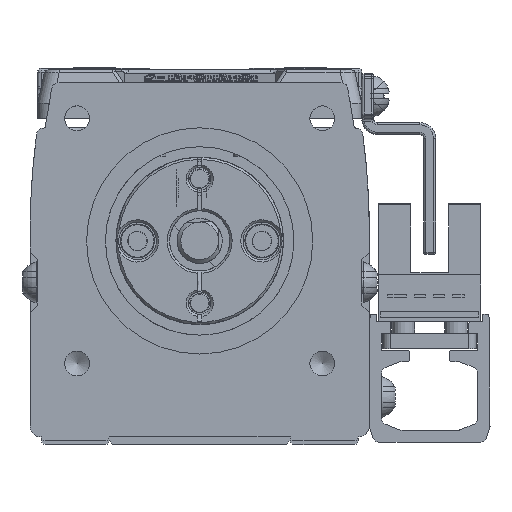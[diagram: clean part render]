
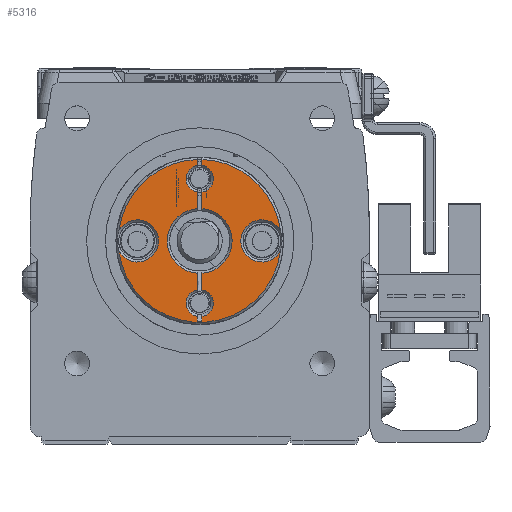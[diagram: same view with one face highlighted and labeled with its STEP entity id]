
A CAD part, left-side view. The second image highlights one B-rep face of the part: STEP entity #5316.
In plain terms, the highlighted planar face has unit normal (-1, 0, 0) as drawn and (1, 0, 0) by its records, which use the part's own axes.
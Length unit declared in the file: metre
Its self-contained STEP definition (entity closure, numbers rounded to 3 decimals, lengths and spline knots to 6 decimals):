
#5316=ADVANCED_FACE('',(#11390),#11391,.F.);
#11390=FACE_OUTER_BOUND('',#20077,.T.);
#11391=PLANE('',#20078);
#20077=EDGE_LOOP('',(#33382,#33383,#33384,#33385,#33386,#33387,#33388,#33389,#33390,#33391,#33392,#33393,#33394,#33395,#33396,#33397,#33398,#33399,#33400,#33401));
#20078=AXIS2_PLACEMENT_3D('',#33402,#33403,#33404);
#33382=ORIENTED_EDGE('',*,*,#52052,.F.);
#33383=ORIENTED_EDGE('',*,*,#52053,.T.);
#33384=ORIENTED_EDGE('',*,*,#52054,.F.);
#33385=ORIENTED_EDGE('',*,*,#52055,.F.);
#33386=ORIENTED_EDGE('',*,*,#50384,.T.);
#33387=ORIENTED_EDGE('',*,*,#52056,.T.);
#33388=ORIENTED_EDGE('',*,*,#52057,.F.);
#33389=ORIENTED_EDGE('',*,*,#52058,.F.);
#33390=ORIENTED_EDGE('',*,*,#52059,.F.);
#33391=ORIENTED_EDGE('',*,*,#52060,.T.);
#33392=ORIENTED_EDGE('',*,*,#52061,.F.);
#33393=ORIENTED_EDGE('',*,*,#52062,.F.);
#33394=ORIENTED_EDGE('',*,*,#49674,.F.);
#33395=ORIENTED_EDGE('',*,*,#52063,.F.);
#33396=ORIENTED_EDGE('',*,*,#52064,.F.);
#33397=ORIENTED_EDGE('',*,*,#52065,.F.);
#33398=ORIENTED_EDGE('',*,*,#52066,.F.);
#33399=ORIENTED_EDGE('',*,*,#52067,.F.);
#33400=ORIENTED_EDGE('',*,*,#52068,.T.);
#33401=ORIENTED_EDGE('',*,*,#52069,.F.);
#33402=CARTESIAN_POINT('',(0.0,0.0,0.));
#33403=DIRECTION('',(-1.0,0.,0.0));
#33404=DIRECTION('',(0.,-1.0,0.0));
#49674=EDGE_CURVE('',#57642,#57644,#57645,.T.);
#50384=EDGE_CURVE('',#58873,#58877,#58879,.F.);
#52052=EDGE_CURVE('',#61636,#61637,#61638,.F.);
#52053=EDGE_CURVE('',#61636,#61639,#61640,.T.);
#52054=EDGE_CURVE('',#61641,#61639,#61642,.F.);
#52055=EDGE_CURVE('',#58873,#61641,#61643,.T.);
#52056=EDGE_CURVE('',#58877,#61644,#61645,.T.);
#52057=EDGE_CURVE('',#61646,#61644,#61647,.F.);
#52058=EDGE_CURVE('',#61648,#61646,#61649,.T.);
#52059=EDGE_CURVE('',#61650,#61648,#61651,.T.);
#52060=EDGE_CURVE('',#61650,#61652,#61653,.T.);
#52061=EDGE_CURVE('',#61654,#61652,#61655,.F.);
#52062=EDGE_CURVE('',#57644,#61654,#61656,.T.);
#52063=EDGE_CURVE('',#61657,#57642,#61658,.T.);
#52064=EDGE_CURVE('',#61659,#61657,#61660,.T.);
#52065=EDGE_CURVE('',#61661,#61659,#61662,.T.);
#52066=EDGE_CURVE('',#61663,#61661,#61664,.T.);
#52067=EDGE_CURVE('',#61665,#61663,#61666,.T.);
#52068=EDGE_CURVE('',#61665,#61667,#61668,.F.);
#52069=EDGE_CURVE('',#61637,#61667,#61669,.T.);
#57642=VERTEX_POINT('',#69350);
#57644=VERTEX_POINT('',#69353);
#57645=LINE('',#69354,#69355);
#58873=VERTEX_POINT('',#71169);
#58877=VERTEX_POINT('',#71177);
#58879=LINE('',#71179,#71180);
#61636=VERTEX_POINT('',#75326);
#61637=VERTEX_POINT('',#75327);
#61638=LINE('',#75328,#75329);
#61639=VERTEX_POINT('',#75330);
#61640=CIRCLE('',#75331,0.0043);
#61641=VERTEX_POINT('',#75332);
#61642=LINE('',#75333,#75334);
#61643=CIRCLE('',#75335,0.0018);
#61644=VERTEX_POINT('',#75336);
#61645=LINE('',#75337,#75338);
#61646=VERTEX_POINT('',#75339);
#61647=LINE('',#75340,#75341);
#61648=VERTEX_POINT('',#75342);
#61649=CIRCLE('',#75343,0.0018);
#61650=VERTEX_POINT('',#75344);
#61651=LINE('',#75345,#75346);
#61652=VERTEX_POINT('',#75347);
#61653=CIRCLE('',#75348,0.0043);
#61654=VERTEX_POINT('',#75349);
#61655=LINE('',#75350,#75351);
#61656=CIRCLE('',#75352,0.0018);
#61657=VERTEX_POINT('',#75353);
#61658=CIRCLE('',#75354,0.0108);
#61659=VERTEX_POINT('',#75355);
#61660=CIRCLE('',#75356,0.0028);
#61661=VERTEX_POINT('',#75357);
#61662=CIRCLE('',#75358,0.0108);
#61663=VERTEX_POINT('',#75359);
#61664=CIRCLE('',#75360,0.0028);
#61665=VERTEX_POINT('',#75361);
#61666=CIRCLE('',#75362,0.0108);
#61667=VERTEX_POINT('',#75363);
#61668=LINE('',#75364,#75365);
#61669=CIRCLE('',#75366,0.0018);
#69350=CARTESIAN_POINT('',(0.,0.010796,0.0003));
#69353=CARTESIAN_POINT('',(0.,0.010025,0.0003));
#69354=CARTESIAN_POINT('',(0.0,0.0,0.0003));
#69355=VECTOR('',#86857,1.0);
#71169=CARTESIAN_POINT('',(0.,-0.010025,-0.0003));
#71177=CARTESIAN_POINT('',(0.,-0.010642,-0.0003));
#71179=CARTESIAN_POINT('',(0.0,0.0025,-0.0003));
#71180=VECTOR('',#87791,1.0);
#75326=CARTESIAN_POINT('',(0.,0.00429,-0.0003));
#75327=CARTESIAN_POINT('',(0.,0.006475,-0.0003));
#75328=CARTESIAN_POINT('',(0.0,0.0,-0.0003));
#75329=VECTOR('',#89898,1.0);
#75330=CARTESIAN_POINT('',(0.,-0.00429,-0.0003));
#75331=AXIS2_PLACEMENT_3D('',#89899,#89900,#89901);
#75332=CARTESIAN_POINT('',(0.,-0.006475,-0.0003));
#75333=CARTESIAN_POINT('',(0.0,0.0,-0.0003));
#75334=VECTOR('',#89902,1.0);
#75335=AXIS2_PLACEMENT_3D('',#89903,#89904,#89905);
#75336=CARTESIAN_POINT('',(0.,-0.010642,0.0003));
#75337=CARTESIAN_POINT('',(0.,-0.010642,0.0003));
#75338=VECTOR('',#89906,1.0);
#75339=CARTESIAN_POINT('',(0.,-0.010025,0.0003));
#75340=CARTESIAN_POINT('',(0.0,0.0025,0.0003));
#75341=VECTOR('',#89907,1.0);
#75342=CARTESIAN_POINT('',(0.,-0.006475,0.0003));
#75343=AXIS2_PLACEMENT_3D('',#89908,#89909,#89910);
#75344=CARTESIAN_POINT('',(0.,-0.00429,0.0003));
#75345=CARTESIAN_POINT('',(0.0,0.0,0.0003));
#75346=VECTOR('',#89911,1.0);
#75347=CARTESIAN_POINT('',(0.0,0.00429,0.0003));
#75348=AXIS2_PLACEMENT_3D('',#89912,#89913,#89914);
#75349=CARTESIAN_POINT('',(0.0,0.006475,0.0003));
#75350=CARTESIAN_POINT('',(0.0,0.0025,0.0003));
#75351=VECTOR('',#89915,1.0);
#75352=AXIS2_PLACEMENT_3D('',#89916,#89917,#89918);
#75353=CARTESIAN_POINT('',(0.,0.001321,0.010719));
#75354=AXIS2_PLACEMENT_3D('',#89919,#89920,#89921);
#75355=CARTESIAN_POINT('',(0.,-0.001321,0.010719));
#75356=AXIS2_PLACEMENT_3D('',#89922,#89923,#89924);
#75357=CARTESIAN_POINT('',(0.,-0.001321,-0.010719));
#75358=AXIS2_PLACEMENT_3D('',#89925,#89926,#89927);
#75359=CARTESIAN_POINT('',(0.,0.001321,-0.010719));
#75360=AXIS2_PLACEMENT_3D('',#89928,#89929,#89930);
#75361=CARTESIAN_POINT('',(0.,0.010796,-0.0003));
#75362=AXIS2_PLACEMENT_3D('',#89931,#89932,#89933);
#75363=CARTESIAN_POINT('',(0.,0.010025,-0.0003));
#75364=CARTESIAN_POINT('',(0.0,0.0025,-0.0003));
#75365=VECTOR('',#89934,1.0);
#75366=AXIS2_PLACEMENT_3D('',#89935,#89936,#89937);
#86857=DIRECTION('',(0.,-1.0,0.0));
#87791=DIRECTION('',(0.0,1.0,0.0));
#89898=DIRECTION('',(0.,-1.0,0.0));
#89899=CARTESIAN_POINT('',(0.,0.,0.));
#89900=DIRECTION('',(-1.0,0.,0.0));
#89901=DIRECTION('',(0.,-1.0,0.0));
#89902=DIRECTION('',(0.,-1.0,0.0));
#89903=CARTESIAN_POINT('',(0.0,-0.00825,0.));
#89904=DIRECTION('',(1.0,0.0,0.0));
#89905=DIRECTION('',(0.0,0.0,-1.0));
#89906=DIRECTION('',(0.0,0.0,1.0));
#89907=DIRECTION('',(0.0,1.0,0.0));
#89908=CARTESIAN_POINT('',(0.0,-0.00825,0.));
#89909=DIRECTION('',(1.0,0.0,0.0));
#89910=DIRECTION('',(0.0,0.0,-1.0));
#89911=DIRECTION('',(0.,-1.0,0.0));
#89912=CARTESIAN_POINT('',(0.,0.,0.));
#89913=DIRECTION('',(-1.0,0.,0.0));
#89914=DIRECTION('',(0.,-1.0,0.0));
#89915=DIRECTION('',(0.0,1.0,0.0));
#89916=CARTESIAN_POINT('',(0.0,0.00825,0.));
#89917=DIRECTION('',(1.0,0.0,0.0));
#89918=DIRECTION('',(0.0,0.0,-1.0));
#89919=CARTESIAN_POINT('',(0.,0.0,0.));
#89920=DIRECTION('',(-1.0,0.0,0.0));
#89921=DIRECTION('',(0.0,0.0,1.0));
#89922=CARTESIAN_POINT('',(0.0,0.,0.00825));
#89923=DIRECTION('',(1.0,0.,0.0));
#89924=DIRECTION('',(0.,1.0,0.0));
#89925=CARTESIAN_POINT('',(0.,0.0,0.));
#89926=DIRECTION('',(-1.0,0.0,0.0));
#89927=DIRECTION('',(0.0,0.0,1.0));
#89928=CARTESIAN_POINT('',(0.,0.,-0.00825));
#89929=DIRECTION('',(1.0,0.,0.0));
#89930=DIRECTION('',(0.,1.0,0.0));
#89931=CARTESIAN_POINT('',(0.,0.0,0.));
#89932=DIRECTION('',(-1.0,0.0,0.0));
#89933=DIRECTION('',(0.0,0.0,1.0));
#89934=DIRECTION('',(0.0,1.0,0.0));
#89935=CARTESIAN_POINT('',(0.0,0.00825,0.));
#89936=DIRECTION('',(1.0,0.0,0.0));
#89937=DIRECTION('',(0.0,0.0,-1.0));
